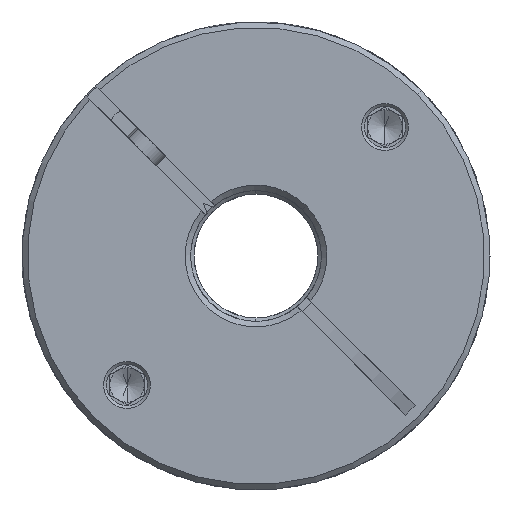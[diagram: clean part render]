
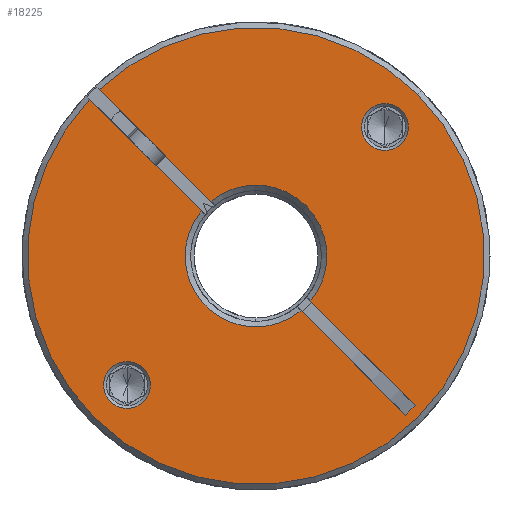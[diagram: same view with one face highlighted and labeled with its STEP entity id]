
A CAD part, front view. The second image highlights one B-rep face of the part: STEP entity #18225.
In plain terms, the highlighted planar face has unit normal (0, -1, 0).
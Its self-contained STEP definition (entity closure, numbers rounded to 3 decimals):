
#121 = CARTESIAN_POINT ( 'NONE',  ( -2.735, -67.045, 68. ) ) ;
#133 = EDGE_CURVE ( 'NONE', #10847, #6813, #14744, .T. ) ;
#195 = CARTESIAN_POINT ( 'NONE',  ( 3.807, -67.045, 60.044 ) ) ;
#914 = AXIS2_PLACEMENT_3D ( 'NONE', #3354, #8481, #4963 ) ;
#976 = EDGE_CURVE ( 'NONE', #21267, #14445, #8457, .T. ) ;
#992 = DIRECTION ( 'NONE',  ( 0.707, 0., 0.707 ) ) ;
#1262 = AXIS2_PLACEMENT_3D ( 'NONE', #19273, #9310, #992 ) ;
#1263 = CARTESIAN_POINT ( 'NONE',  ( -26.908, -67.045, 90.758 ) ) ;
#1733 = AXIS2_PLACEMENT_3D ( 'NONE', #13567, #10334, #11693 ) ;
#2152 = ORIENTED_EDGE ( 'NONE', *, *, #5903, .T. ) ;
#2433 = DIRECTION ( 'NONE',  ( 0.707, 0., 0.707 ) ) ;
#2521 = FACE_OUTER_BOUND ( 'NONE', #5063, .T. ) ;
#3054 = DIRECTION ( 'NONE',  ( 0., 1., 0. ) ) ;
#3155 = EDGE_CURVE ( 'NONE', #6813, #13980, #3392, .T. ) ;
#3279 = CARTESIAN_POINT ( 'NONE',  ( -2.735, -67.045, 68. ) ) ;
#3354 = CARTESIAN_POINT ( 'NONE',  ( 16.003, -67.045, 86.738 ) ) ;
#3392 = LINE ( 'NONE', #13575, #10460 ) ;
#3454 = DIRECTION ( 'NONE',  ( 0.707, 0., 0.707 ) ) ;
#3914 = LINE ( 'NONE', #16747, #21131 ) ;
#3957 = CARTESIAN_POINT ( 'NONE',  ( -2.735, -67.045, 68. ) ) ;
#4386 = CARTESIAN_POINT ( 'NONE',  ( -19.069, -67.045, 51.666 ) ) ;
#4388 = EDGE_CURVE ( 'NONE', #5122, #10847, #10446, .T. ) ;
#4421 = VERTEX_POINT ( 'NONE', #18485 ) ;
#4498 = AXIS2_PLACEMENT_3D ( 'NONE', #15285, #5518, #7298 ) ;
#4675 = DIRECTION ( 'NONE',  ( 0.707, 0., 0.707 ) ) ;
#4744 = DIRECTION ( 'NONE',  ( 0.707, 0., 0.707 ) ) ;
#4797 = EDGE_CURVE ( 'NONE', #19906, #14445, #9643, .T. ) ;
#4806 = ORIENTED_EDGE ( 'NONE', *, *, #3155, .T. ) ;
#4854 = ORIENTED_EDGE ( 'NONE', *, *, #5486, .T. ) ;
#4888 = DIRECTION ( 'NONE',  ( 0., 1., 0. ) ) ;
#4963 = DIRECTION ( 'NONE',  ( 0.707, 0., 0.707 ) ) ;
#5063 = EDGE_LOOP ( 'NONE', ( #14170, #21627, #5953, #10000, #4806, #8470, #4854, #21342, #11496, #7156, #8003 ) ) ;
#5122 = VERTEX_POINT ( 'NONE', #12646 ) ;
#5349 = CARTESIAN_POINT ( 'NONE',  ( -2.735, -67.045, 68. ) ) ;
#5486 = EDGE_CURVE ( 'NONE', #20971, #20341, #16106, .T. ) ;
#5518 = DIRECTION ( 'NONE',  ( 0., 1., 0. ) ) ;
#5663 = CARTESIAN_POINT ( 'NONE',  ( 13.599, -67.045, 84.334 ) ) ;
#5813 = CARTESIAN_POINT ( 'NONE',  ( -9.277, -67.045, 75.956 ) ) ;
#5903 = EDGE_CURVE ( 'NONE', #19537, #19485, #10388, .T. ) ;
#5953 = ORIENTED_EDGE ( 'NONE', *, *, #4388, .T. ) ;
#6120 = EDGE_LOOP ( 'NONE', ( #6442, #16272 ) ) ;
#6442 = ORIENTED_EDGE ( 'NONE', *, *, #18298, .T. ) ;
#6697 = CARTESIAN_POINT ( 'NONE',  ( 5.221, -67.045, 61.458 ) ) ;
#6813 = VERTEX_POINT ( 'NONE', #8723 ) ;
#7048 = DIRECTION ( 'NONE',  ( 0., -1., 0. ) ) ;
#7156 = ORIENTED_EDGE ( 'NONE', *, *, #16456, .F. ) ;
#7215 = CARTESIAN_POINT ( 'NONE',  ( 18.407, -67.045, 89.142 ) ) ;
#7298 = DIRECTION ( 'NONE',  ( 0.707, 0., 0.707 ) ) ;
#7406 = DIRECTION ( 'NONE',  ( 0.707, 0., 0.707 ) ) ;
#7605 = AXIS2_PLACEMENT_3D ( 'NONE', #14663, #3054, #4675 ) ;
#7914 = EDGE_CURVE ( 'NONE', #17771, #4421, #13299, .T. ) ;
#8003 = ORIENTED_EDGE ( 'NONE', *, *, #4797, .T. ) ;
#8088 = CIRCLE ( 'NONE', #9108, 10.3 ) ;
#8093 = VECTOR ( 'NONE', #13853, 1000. ) ;
#8101 = AXIS2_PLACEMENT_3D ( 'NONE', #19080, #15650, #2433 ) ;
#8370 = CARTESIAN_POINT ( 'NONE',  ( -23.878, -67.045, 46.858 ) ) ;
#8387 = EDGE_CURVE ( 'NONE', #21267, #5122, #15888, .T. ) ;
#8457 = LINE ( 'NONE', #14026, #11062 ) ;
#8470 = ORIENTED_EDGE ( 'NONE', *, *, #16836, .T. ) ;
#8481 = DIRECTION ( 'NONE',  ( 0., 1., 0. ) ) ;
#8723 = CARTESIAN_POINT ( 'NONE',  ( -25.493, -67.045, 92.172 ) ) ;
#8731 = EDGE_LOOP ( 'NONE', ( #2152, #21404 ) ) ;
#8819 = DIRECTION ( 'NONE',  ( 0., -1., 0. ) ) ;
#9108 = AXIS2_PLACEMENT_3D ( 'NONE', #3279, #13048, #4744 ) ;
#9310 = DIRECTION ( 'NONE',  ( 0., 1., 0. ) ) ;
#9321 = CARTESIAN_POINT ( 'NONE',  ( -2.028, -67.045, 68.707 ) ) ;
#9357 = FACE_BOUND ( 'NONE', #8731, .T. ) ;
#9643 = CIRCLE ( 'NONE', #14749, 10.3 ) ;
#9875 = CIRCLE ( 'NONE', #1262, 3.4 ) ;
#10000 = ORIENTED_EDGE ( 'NONE', *, *, #133, .T. ) ;
#10093 = CARTESIAN_POINT ( 'NONE',  ( -2.735, -67.045, 68. ) ) ;
#10334 = DIRECTION ( 'NONE',  ( 0., -1., 0. ) ) ;
#10388 = CIRCLE ( 'NONE', #914, 3.4 ) ;
#10446 = CIRCLE ( 'NONE', #1733, 33.2 ) ;
#10460 = VECTOR ( 'NONE', #15193, 1000. ) ;
#10847 = VERTEX_POINT ( 'NONE', #19281 ) ;
#10859 = EDGE_CURVE ( 'NONE', #20341, #17771, #21280, .T. ) ;
#11030 = AXIS2_PLACEMENT_3D ( 'NONE', #3957, #8819, #7406 ) ;
#11062 = VECTOR ( 'NONE', #20665, 1000. ) ;
#11355 = AXIS2_PLACEMENT_3D ( 'NONE', #5349, #7048, #3454 ) ;
#11496 = ORIENTED_EDGE ( 'NONE', *, *, #7914, .T. ) ;
#11693 = DIRECTION ( 'NONE',  ( 0.707, 0., 0.707 ) ) ;
#11694 = DIRECTION ( 'NONE',  ( 0.707, 0., 0.707 ) ) ;
#11868 = CARTESIAN_POINT ( 'NONE',  ( 4.548, -67.045, 75.283 ) ) ;
#12461 = DIRECTION ( 'NONE',  ( 0.707, 0., -0.707 ) ) ;
#12646 = CARTESIAN_POINT ( 'NONE',  ( -26.211, -67.045, 44.524 ) ) ;
#13048 = DIRECTION ( 'NONE',  ( 0., 1., 0. ) ) ;
#13103 = AXIS2_PLACEMENT_3D ( 'NONE', #121, #13370, #11694 ) ;
#13230 = FACE_BOUND ( 'NONE', #6120, .T. ) ;
#13287 = EDGE_CURVE ( 'NONE', #19485, #19537, #17059, .T. ) ;
#13299 = LINE ( 'NONE', #20643, #8093 ) ;
#13370 = DIRECTION ( 'NONE',  ( 0., -1., 0. ) ) ;
#13468 = DIRECTION ( 'NONE',  ( 0.707, 0., -0.707 ) ) ;
#13567 = CARTESIAN_POINT ( 'NONE',  ( -2.735, -67.045, 68. ) ) ;
#13575 = CARTESIAN_POINT ( 'NONE',  ( -2.028, -67.045, 68.707 ) ) ;
#13853 = DIRECTION ( 'NONE',  ( -0.707, 0., -0.707 ) ) ;
#13980 = VERTEX_POINT ( 'NONE', #5813 ) ;
#14026 = CARTESIAN_POINT ( 'NONE',  ( -3.442, -67.045, 67.293 ) ) ;
#14170 = ORIENTED_EDGE ( 'NONE', *, *, #976, .F. ) ;
#14445 = VERTEX_POINT ( 'NONE', #15844 ) ;
#14557 = VERTEX_POINT ( 'NONE', #4386 ) ;
#14663 = CARTESIAN_POINT ( 'NONE',  ( 16.003, -67.045, 86.738 ) ) ;
#14744 = CIRCLE ( 'NONE', #13103, 33.2 ) ;
#14749 = AXIS2_PLACEMENT_3D ( 'NONE', #10093, #4888, #16543 ) ;
#15054 = PLANE ( 'NONE',  #11355 ) ;
#15193 = DIRECTION ( 'NONE',  ( 0.707, 0., -0.707 ) ) ;
#15285 = CARTESIAN_POINT ( 'NONE',  ( -21.473, -67.045, 49.262 ) ) ;
#15650 = DIRECTION ( 'NONE',  ( 0., 1., 0. ) ) ;
#15844 = CARTESIAN_POINT ( 'NONE',  ( -10.691, -67.045, 74.542 ) ) ;
#15888 = CIRCLE ( 'NONE', #11030, 33.2 ) ;
#16106 = CIRCLE ( 'NONE', #8101, 10.3 ) ;
#16272 = ORIENTED_EDGE ( 'NONE', *, *, #18798, .T. ) ;
#16330 = VECTOR ( 'NONE', #12461, 1000. ) ;
#16456 = EDGE_CURVE ( 'NONE', #19906, #4421, #3914, .T. ) ;
#16543 = DIRECTION ( 'NONE',  ( 0.707, 0., 0.707 ) ) ;
#16747 = CARTESIAN_POINT ( 'NONE',  ( -3.442, -67.045, 67.293 ) ) ;
#16836 = EDGE_CURVE ( 'NONE', #13980, #20971, #8088, .T. ) ;
#17059 = CIRCLE ( 'NONE', #7605, 3.4 ) ;
#17220 = CARTESIAN_POINT ( 'NONE',  ( 20.402, -67.045, 46.277 ) ) ;
#17384 = CIRCLE ( 'NONE', #4498, 3.4 ) ;
#17771 = VERTEX_POINT ( 'NONE', #17220 ) ;
#18064 = VERTEX_POINT ( 'NONE', #8370 ) ;
#18225 = ADVANCED_FACE ( 'NONE', ( #9357, #13230, #2521 ), #15054, .T. ) ;
#18298 = EDGE_CURVE ( 'NONE', #14557, #18064, #9875, .T. ) ;
#18485 = CARTESIAN_POINT ( 'NONE',  ( 18.988, -67.045, 44.862 ) ) ;
#18798 = EDGE_CURVE ( 'NONE', #18064, #14557, #17384, .T. ) ;
#19080 = CARTESIAN_POINT ( 'NONE',  ( -2.735, -67.045, 68. ) ) ;
#19273 = CARTESIAN_POINT ( 'NONE',  ( -21.473, -67.045, 49.262 ) ) ;
#19281 = CARTESIAN_POINT ( 'NONE',  ( 20.741, -67.045, 91.476 ) ) ;
#19485 = VERTEX_POINT ( 'NONE', #5663 ) ;
#19537 = VERTEX_POINT ( 'NONE', #7215 ) ;
#19906 = VERTEX_POINT ( 'NONE', #195 ) ;
#20341 = VERTEX_POINT ( 'NONE', #6697 ) ;
#20643 = CARTESIAN_POINT ( 'NONE',  ( 18.988, -67.045, 44.862 ) ) ;
#20665 = DIRECTION ( 'NONE',  ( 0.707, 0., -0.707 ) ) ;
#20971 = VERTEX_POINT ( 'NONE', #11868 ) ;
#21131 = VECTOR ( 'NONE', #13468, 1000. ) ;
#21267 = VERTEX_POINT ( 'NONE', #1263 ) ;
#21280 = LINE ( 'NONE', #9321, #16330 ) ;
#21342 = ORIENTED_EDGE ( 'NONE', *, *, #10859, .T. ) ;
#21404 = ORIENTED_EDGE ( 'NONE', *, *, #13287, .T. ) ;
#21627 = ORIENTED_EDGE ( 'NONE', *, *, #8387, .T. ) ;
